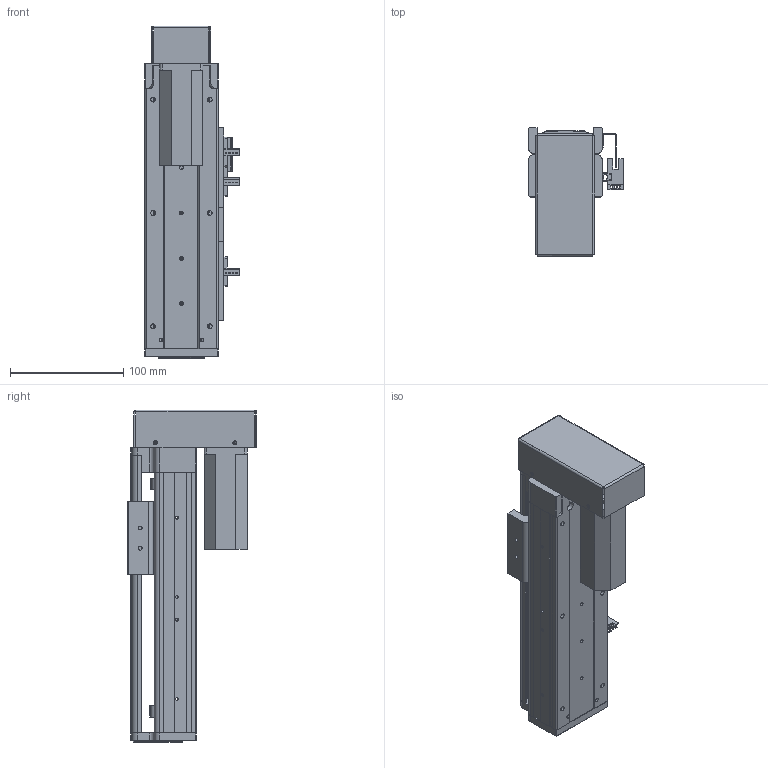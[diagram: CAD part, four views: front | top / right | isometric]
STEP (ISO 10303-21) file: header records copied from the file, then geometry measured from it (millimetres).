
FILE_DESCRIPTION (( 'STEP AP203' ), '1' );
FILE_NAME ('RY60-L1210-300-BK.SLDASM_100.step', '2021-02-20T06:41:58', ( '盈信电脑' ), ( '东莞市道滘镇水果街19号' ), 'SwSTEP 2.0', 'SolidWorks 2012', '' );
FILE_SCHEMA (( 'CONFIG_CONTROL_DESIGN' ));
Length unit declared in the file: millimetre
Products named in the file (13): 侂狟100W; RY60-L1210-300-BK.SLDASM_100; RY60狟殏萇儂欶100W; 滅袉蝶18-10; 覜茼ん672; RY60狟殏萇儂假蚾啣; RY80俋离覜茼え; RY60转折电机端支撑座; RY60綴裔啣; RY60-300倰第裔啣-BK_100; 672嫖萇羲壽假蚾釱; RY60臏賑輸; RY60-300倰第菁釱-BK_100
Assembly tree (18 placements, depth 2):
  RY60-L1210-300-BK.SLDASM_100
    RY60-300倰第菁釱-BK_100
    RY60臏賑輸
    RY60-300倰第裔啣-BK_100
    672嫖萇羲壽假蚾釱  x2
    RY60綴裔啣
    覜茼ん672  x3
    RY80俋离覜茼え
    RY60转折电机端支撑座
    RY60狟殏萇儂假蚾啣
    侂狟100W
    RY60狟殏萇儂欶100W
    滅袉蝶18-10  x4
Bounding box: 83.7 x 113.5 x 293 mm (x, y, z)
Volume: 535262 mm3; surface area: 253225.7 mm2
Topology: 18 solids, 18 shells, 1353 faces, 3743 edges, 2398 vertices
Faces by surface type: plane 687, cylinder 549, cone 100, bspline 17
Entity records: 39210 total; most frequent: CARTESIAN_POINT 8875, ORIENTED_EDGE 6070, DIRECTION 5933, EDGE_CURVE 3035, AXIS2_PLACEMENT_3D 2026, VERTEX_POINT 1978, LINE 1881, VECTOR 1881
